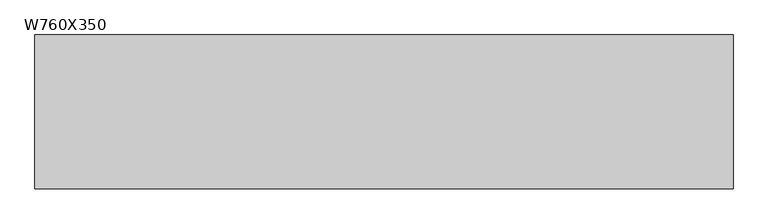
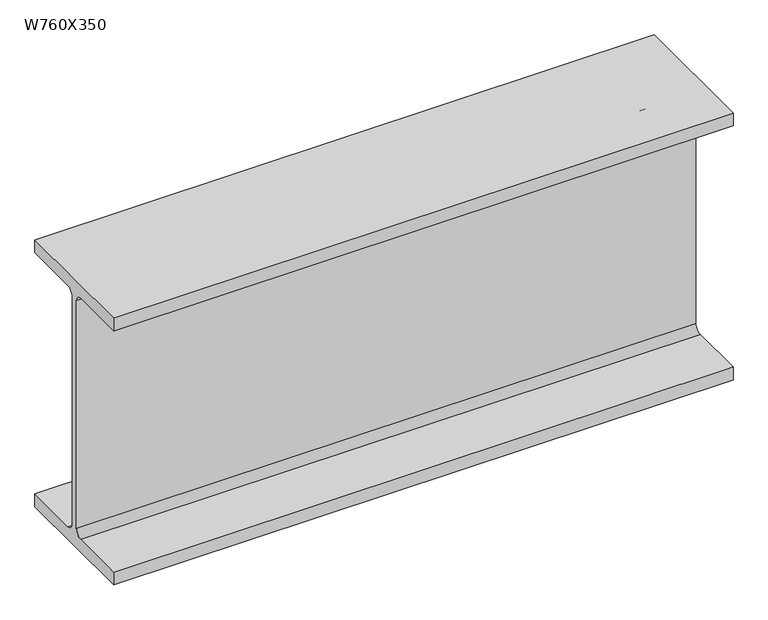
"""IFC4 building model written with IfcOpenShell, lengths in millimetres: beam geometry, M_W Shapes : W760X350."""

from ifc_helpers import new_model, si_unit, point, frame, frame_2d, origin, place, context, project, spatial, polyline, circle_curve, trimmed, segment, composite_curve, outline, extrude, source, transform, mapped, element, save


def w760x350_0240efb8(model_context):
    return source(origin(), model_context, "Body", "SweptSolid", [
        extrude(outline(composite_curve([segment(polyline([(192.0, -359.4), (192.0, -397.5), (-192.0, -397.5), (-192.0, -359.4), (-30.65, -359.4)]), True, "CONTINUOUS"), segment(trimmed(circle_curve(frame_2d((-30.65, -339.3)), 20.1), [point((-30.65, -359.4))], [point((-10.55, -339.3))], True, "CARTESIAN"), True, "CONTINUOUS"), segment(polyline([(-10.55, -339.3), (-10.55, 339.3)]), True, "CONTINUOUS"), segment(trimmed(circle_curve(frame_2d((-30.65, 339.3)), 20.1), [point((-10.55, 339.3))], [point((-30.65, 359.4))], True, "CARTESIAN"), True, "CONTINUOUS"), segment(polyline([(-30.65, 359.4), (-192.0, 359.4), (-192.0, 397.5), (192.0, 397.5), (192.0, 359.4), (30.65, 359.4)]), True, "CONTINUOUS"), segment(trimmed(circle_curve(frame_2d((30.65, 339.3)), 20.1), [point((30.65, 359.4))], [point((10.55, 339.3))], True, "CARTESIAN"), True, "CONTINUOUS"), segment(polyline([(10.55, 339.3), (10.55, -339.3)]), True, "CONTINUOUS"), segment(trimmed(circle_curve(frame_2d((30.65, -339.3)), 20.1), [point((10.55, -339.3))], [point((30.65, -359.4))], True, "CARTESIAN"), True, "CONTINUOUS"), segment(polyline([(30.65, -359.4), (192.0, -359.4)]), True, "CONTINUOUS")], self_intersect=False)), frame((-1008.2, 0.0, 0.0), z_axis=(1.0, 0.0, 0.0), x_axis=(0.0, 1.0, 0.0)), (0.0, 0.0, 1.0), 1744.1),
    ])


if __name__ == "__main__":
    model = new_model("IFC4")
    model_context = context("Model", 3, world=origin())
    ifc_project = project(units=[si_unit("LENGTHUNIT", "METRE", prefix="MILLI")], contexts=[model_context])
    site = spatial("IfcSite", under=ifc_project)
    building = spatial("IfcBuilding", under=site)
    placement = place(None, origin())
    w760x350_shape = w760x350_0240efb8(model_context)
    element("IfcBeam", 1, ObjectType="M_W Shapes : W760X350", at=placement, inside=building, context=model_context, shape_type="MappedRepresentation", body=[
        mapped(w760x350_shape, transform((0.0, 0.0, 0.0), x_axis=(1.0, 0.0, 0.0), y_axis=(0.0, 1.0, 0.0), z_axis=(0.0, 0.0, 1.0))),
    ])
    save(model, "model.ifc")
